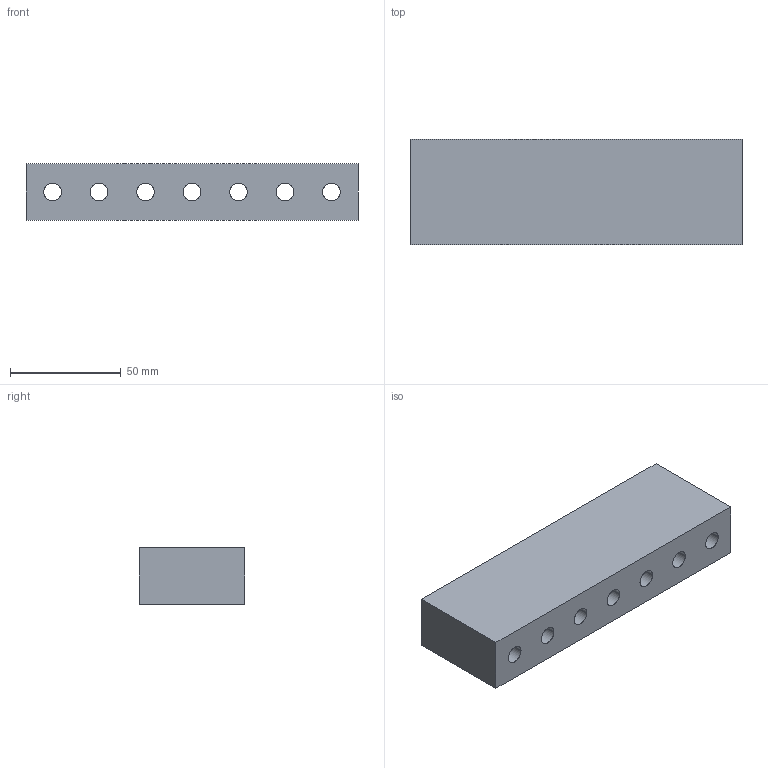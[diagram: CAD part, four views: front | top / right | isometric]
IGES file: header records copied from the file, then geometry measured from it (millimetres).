
Start section: SolidWorks IGES file using analytic representation for surfaces
Global section: file name: C:\Users\liam_\OneDrive\Documents\WORK\Work for WixRoyd\Job Files\J-00028 - Matt Davis CAD - 20191222\Wixroyd20191222\12037_v2\12037_v2_2020102_IGES\12037.W0115.igs; native system: SolidWorks 2017; preprocessor: SolidWorks 2017; author: liam_; date: 200102.205337; units: millimetre
Bounding box: 150 x 47.75 x 25.4 mm (x, y, z)
Surface area: 33826.9 mm2 (no closed solid volume)
Topology: 0 solids, 0 shells, 41 faces, 1032 edges, 1032 vertices
Faces by surface type: revolution 28, bspline 13
